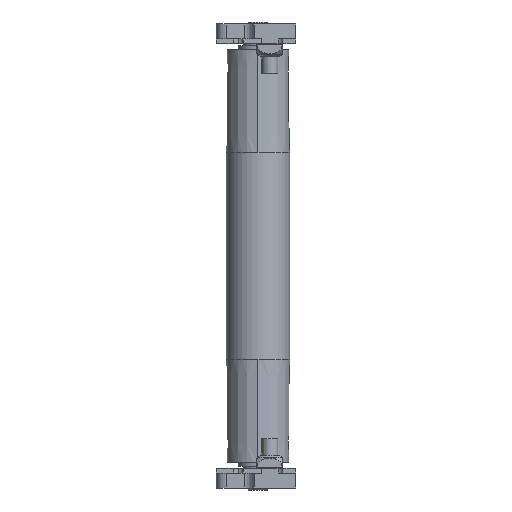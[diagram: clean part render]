
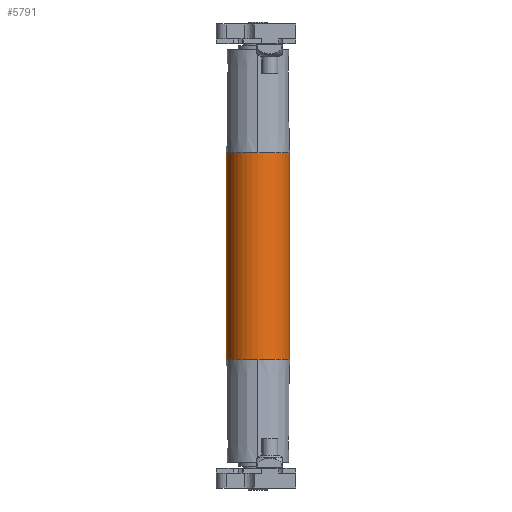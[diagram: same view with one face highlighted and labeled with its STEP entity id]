
A CAD part, left-side view. The second image highlights one B-rep face of the part: STEP entity #5791.
In plain terms, the highlighted cylindrical face has radius 16 mm (diameter 32 mm), a partial arc.
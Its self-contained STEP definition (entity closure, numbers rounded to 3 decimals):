
#296 = VERTEX_POINT ( 'NONE', #3116 ) ;
#463 = CARTESIAN_POINT ( 'NONE',  ( -52., 16., 0. ) ) ;
#623 = AXIS2_PLACEMENT_3D ( 'NONE', #7632, #6246, #2474 ) ;
#823 = DIRECTION ( 'NONE',  ( 0., -1., 0. ) ) ;
#960 = CIRCLE ( 'NONE', #6830, 16. ) ;
#969 = DIRECTION ( 'NONE',  ( -1., 0., 0. ) ) ;
#1004 = ORIENTED_EDGE ( 'NONE', *, *, #2112, .F. ) ;
#1125 = ORIENTED_EDGE ( 'NONE', *, *, #3461, .F. ) ;
#1310 = CARTESIAN_POINT ( 'NONE',  ( 52., 0., 0. ) ) ;
#1311 = ORIENTED_EDGE ( 'NONE', *, *, #5900, .F. ) ;
#1420 = CARTESIAN_POINT ( 'NONE',  ( -104., 0., 0. ) ) ;
#1586 = VERTEX_POINT ( 'NONE', #5250 ) ;
#1760 = LINE ( 'NONE', #2937, #3127 ) ;
#1979 = AXIS2_PLACEMENT_3D ( 'NONE', #2167, #969, #5886 ) ;
#2054 = LINE ( 'NONE', #7800, #3328 ) ;
#2112 = EDGE_CURVE ( 'NONE', #4739, #2579, #4714, .T. ) ;
#2167 = CARTESIAN_POINT ( 'NONE',  ( -52., 0., 0. ) ) ;
#2474 = DIRECTION ( 'NONE',  ( 0., 0., 1. ) ) ;
#2579 = VERTEX_POINT ( 'NONE', #3012 ) ;
#2670 = AXIS2_PLACEMENT_3D ( 'NONE', #1310, #6286, #7615 ) ;
#2853 = ORIENTED_EDGE ( 'NONE', *, *, #4816, .T. ) ;
#2883 = DIRECTION ( 'NONE',  ( -1., 0., 0. ) ) ;
#2912 = EDGE_LOOP ( 'NONE', ( #1125, #2853, #3957, #5156, #1004, #1311 ) ) ;
#2937 = CARTESIAN_POINT ( 'NONE',  ( -104., 16., 0. ) ) ;
#3012 = CARTESIAN_POINT ( 'NONE',  ( -52., -16., 0. ) ) ;
#3116 = CARTESIAN_POINT ( 'NONE',  ( 52., 16., 0. ) ) ;
#3127 = VECTOR ( 'NONE', #2883, 1000. ) ;
#3328 = VECTOR ( 'NONE', #7225, 1000. ) ;
#3363 = VERTEX_POINT ( 'NONE', #463 ) ;
#3461 = EDGE_CURVE ( 'NONE', #296, #3363, #1760, .T. ) ;
#3628 = CIRCLE ( 'NONE', #2670, 16. ) ;
#3734 = CARTESIAN_POINT ( 'NONE',  ( 52., 0., -16. ) ) ;
#3885 = AXIS2_PLACEMENT_3D ( 'NONE', #1420, #4502, #823 ) ;
#3957 = ORIENTED_EDGE ( 'NONE', *, *, #6115, .T. ) ;
#4409 = CYLINDRICAL_SURFACE ( 'NONE', #3885, 16. ) ;
#4502 = DIRECTION ( 'NONE',  ( -1., 0., 0. ) ) ;
#4714 = CIRCLE ( 'NONE', #1979, 16. ) ;
#4734 = DIRECTION ( 'NONE',  ( -1., 0., 0. ) ) ;
#4739 = VERTEX_POINT ( 'NONE', #5620 ) ;
#4816 = EDGE_CURVE ( 'NONE', #296, #6834, #3628, .T. ) ;
#5156 = ORIENTED_EDGE ( 'NONE', *, *, #5165, .T. ) ;
#5165 = EDGE_CURVE ( 'NONE', #1586, #2579, #2054, .T. ) ;
#5250 = CARTESIAN_POINT ( 'NONE',  ( 52., -16., 0. ) ) ;
#5620 = CARTESIAN_POINT ( 'NONE',  ( -52., 0., -16. ) ) ;
#5791 = ADVANCED_FACE ( 'NONE', ( #5879 ), #4409, .T. ) ;
#5879 = FACE_OUTER_BOUND ( 'NONE', #2912, .T. ) ;
#5886 = DIRECTION ( 'NONE',  ( 0., 0., 1. ) ) ;
#5900 = EDGE_CURVE ( 'NONE', #3363, #4739, #7462, .T. ) ;
#5969 = CARTESIAN_POINT ( 'NONE',  ( 52., 0., 0. ) ) ;
#6115 = EDGE_CURVE ( 'NONE', #6834, #1586, #960, .T. ) ;
#6246 = DIRECTION ( 'NONE',  ( -1., 0., 0. ) ) ;
#6286 = DIRECTION ( 'NONE',  ( -1., 0., 0. ) ) ;
#6830 = AXIS2_PLACEMENT_3D ( 'NONE', #5969, #4734, #7155 ) ;
#6834 = VERTEX_POINT ( 'NONE', #3734 ) ;
#7155 = DIRECTION ( 'NONE',  ( 0., 0., 1. ) ) ;
#7225 = DIRECTION ( 'NONE',  ( -1., 0., 0. ) ) ;
#7462 = CIRCLE ( 'NONE', #623, 16. ) ;
#7615 = DIRECTION ( 'NONE',  ( 0., 0., 1. ) ) ;
#7632 = CARTESIAN_POINT ( 'NONE',  ( -52., 0., 0. ) ) ;
#7800 = CARTESIAN_POINT ( 'NONE',  ( -104., -16., 0. ) ) ;
